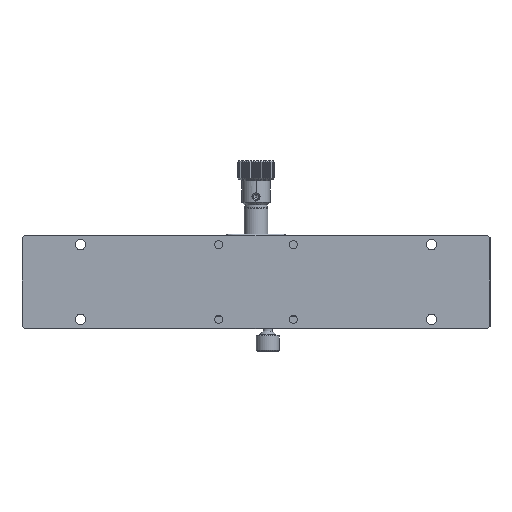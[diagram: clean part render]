
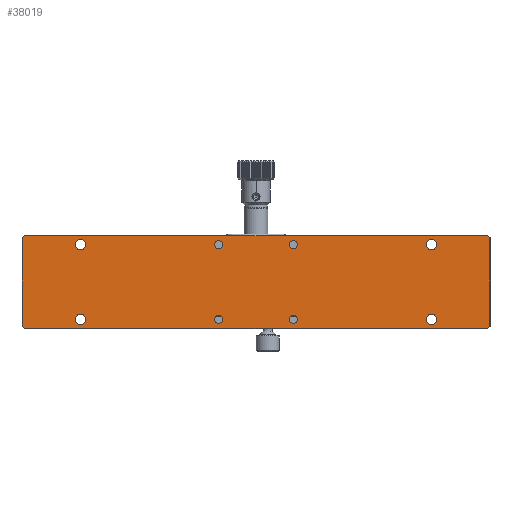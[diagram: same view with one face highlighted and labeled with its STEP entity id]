
A CAD part, front view. The second image highlights one B-rep face of the part: STEP entity #38019.
In plain terms, the highlighted planar face has unit normal (0, -1, 0).
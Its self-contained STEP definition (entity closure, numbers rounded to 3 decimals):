
#571=CARTESIAN_POINT('',(-16.,-14.5,-16.));
#572=DIRECTION('',(0.,1.,0.));
#573=DIRECTION('',(1.,0.,0.));
#574=AXIS2_PLACEMENT_3D('',#571,#572,#573);
#576=CARTESIAN_POINT('',(-16.,-14.5,-16.));
#577=DIRECTION('',(0.,1.,0.));
#578=DIRECTION('',(-1.,0.,0.));
#579=AXIS2_PLACEMENT_3D('',#576,#577,#578);
#581=CARTESIAN_POINT('',(16.,-14.5,-16.));
#582=DIRECTION('',(0.,1.,0.));
#583=DIRECTION('',(1.,0.,0.));
#584=AXIS2_PLACEMENT_3D('',#581,#582,#583);
#586=CARTESIAN_POINT('',(16.,-14.5,-16.));
#587=DIRECTION('',(0.,1.,0.));
#588=DIRECTION('',(-1.,0.,0.));
#589=AXIS2_PLACEMENT_3D('',#586,#587,#588);
#591=CARTESIAN_POINT('',(-16.,-14.5,16.));
#592=DIRECTION('',(0.,1.,0.));
#593=DIRECTION('',(1.,0.,0.));
#594=AXIS2_PLACEMENT_3D('',#591,#592,#593);
#596=CARTESIAN_POINT('',(-16.,-14.5,16.));
#597=DIRECTION('',(0.,1.,0.));
#598=DIRECTION('',(-1.,0.,0.));
#599=AXIS2_PLACEMENT_3D('',#596,#597,#598);
#601=CARTESIAN_POINT('',(16.,-14.5,16.));
#602=DIRECTION('',(0.,1.,0.));
#603=DIRECTION('',(1.,0.,0.));
#604=AXIS2_PLACEMENT_3D('',#601,#602,#603);
#606=CARTESIAN_POINT('',(16.,-14.5,16.));
#607=DIRECTION('',(0.,1.,0.));
#608=DIRECTION('',(-1.,0.,0.));
#609=AXIS2_PLACEMENT_3D('',#606,#607,#608);
#611=CARTESIAN_POINT('',(-16.,-14.5,-75.));
#612=DIRECTION('',(0.,1.,0.));
#613=DIRECTION('',(1.,0.,0.));
#614=AXIS2_PLACEMENT_3D('',#611,#612,#613);
#616=CARTESIAN_POINT('',(-16.,-14.5,-75.));
#617=DIRECTION('',(0.,1.,0.));
#618=DIRECTION('',(-1.,0.,0.));
#619=AXIS2_PLACEMENT_3D('',#616,#617,#618);
#621=CARTESIAN_POINT('',(16.,-14.5,-75.));
#622=DIRECTION('',(0.,1.,0.));
#623=DIRECTION('',(1.,0.,0.));
#624=AXIS2_PLACEMENT_3D('',#621,#622,#623);
#626=CARTESIAN_POINT('',(16.,-14.5,-75.));
#627=DIRECTION('',(0.,1.,0.));
#628=DIRECTION('',(-1.,0.,0.));
#629=AXIS2_PLACEMENT_3D('',#626,#627,#628);
#631=CARTESIAN_POINT('',(-16.,-14.5,75.));
#632=DIRECTION('',(0.,1.,0.));
#633=DIRECTION('',(1.,0.,0.));
#634=AXIS2_PLACEMENT_3D('',#631,#632,#633);
#636=CARTESIAN_POINT('',(-16.,-14.5,75.));
#637=DIRECTION('',(0.,1.,0.));
#638=DIRECTION('',(-1.,0.,0.));
#639=AXIS2_PLACEMENT_3D('',#636,#637,#638);
#641=CARTESIAN_POINT('',(16.,-14.5,75.));
#642=DIRECTION('',(0.,1.,0.));
#643=DIRECTION('',(1.,0.,0.));
#644=AXIS2_PLACEMENT_3D('',#641,#642,#643);
#646=CARTESIAN_POINT('',(16.,-14.5,75.));
#647=DIRECTION('',(0.,1.,0.));
#648=DIRECTION('',(-1.,0.,0.));
#649=AXIS2_PLACEMENT_3D('',#646,#647,#648);
#651=DIRECTION('',(0.707,0.,-0.707));
#652=VECTOR('',#651,1.249);
#653=CARTESIAN_POINT('',(-19.8,-14.5,-98.917));
#654=LINE('',#653,#652);
#655=DIRECTION('',(0.,0.,-1.));
#656=VECTOR('',#655,197.834);
#657=CARTESIAN_POINT('',(-19.8,-14.5,98.917));
#658=LINE('',#657,#656);
#659=DIRECTION('',(-0.707,0.,-0.707));
#660=VECTOR('',#659,1.249);
#661=CARTESIAN_POINT('',(-18.917,-14.5,99.8));
#662=LINE('',#661,#660);
#663=DIRECTION('',(-1.,0.,0.));
#664=VECTOR('',#663,37.834);
#665=CARTESIAN_POINT('',(18.917,-14.5,99.8));
#666=LINE('',#665,#664);
#667=DIRECTION('',(-0.707,0.,0.707));
#668=VECTOR('',#667,1.249);
#669=CARTESIAN_POINT('',(19.8,-14.5,98.917));
#670=LINE('',#669,#668);
#671=DIRECTION('',(0.,0.,1.));
#672=VECTOR('',#671,197.834);
#673=CARTESIAN_POINT('',(19.8,-14.5,-98.917));
#674=LINE('',#673,#672);
#675=DIRECTION('',(0.707,0.,0.707));
#676=VECTOR('',#675,1.249);
#677=CARTESIAN_POINT('',(18.917,-14.5,-99.8));
#678=LINE('',#677,#676);
#679=DIRECTION('',(1.,0.,0.));
#680=VECTOR('',#679,37.834);
#681=CARTESIAN_POINT('',(-18.917,-14.5,-99.8));
#682=LINE('',#681,#680);
#27842=CARTESIAN_POINT('',(-19.8,-14.5,-98.917));
#27843=CARTESIAN_POINT('',(-18.917,-14.5,-99.8));
#27844=VERTEX_POINT('',#27842);
#27845=VERTEX_POINT('',#27843);
#27852=CARTESIAN_POINT('',(18.917,-14.5,-99.8));
#27853=VERTEX_POINT('',#27852);
#27854=CARTESIAN_POINT('',(19.8,-14.5,-98.917));
#27855=VERTEX_POINT('',#27854);
#27860=CARTESIAN_POINT('',(19.8,-14.5,98.917));
#27861=VERTEX_POINT('',#27860);
#27862=CARTESIAN_POINT('',(18.917,-14.5,99.8));
#27863=VERTEX_POINT('',#27862);
#27868=CARTESIAN_POINT('',(-18.917,-14.5,99.8));
#27869=VERTEX_POINT('',#27868);
#27872=CARTESIAN_POINT('',(-19.8,-14.5,98.917));
#27873=VERTEX_POINT('',#27872);
#29262=CARTESIAN_POINT('',(-13.8,-14.5,-75.));
#29263=CARTESIAN_POINT('',(-18.2,-14.5,-75.));
#29264=VERTEX_POINT('',#29262);
#29265=VERTEX_POINT('',#29263);
#29266=CARTESIAN_POINT('',(18.2,-14.5,-75.));
#29267=CARTESIAN_POINT('',(13.8,-14.5,-75.));
#29268=VERTEX_POINT('',#29266);
#29269=VERTEX_POINT('',#29267);
#29270=CARTESIAN_POINT('',(-13.8,-14.5,75.));
#29271=CARTESIAN_POINT('',(-18.2,-14.5,75.));
#29272=VERTEX_POINT('',#29270);
#29273=VERTEX_POINT('',#29271);
#29274=CARTESIAN_POINT('',(18.2,-14.5,75.));
#29275=CARTESIAN_POINT('',(13.8,-14.5,75.));
#29276=VERTEX_POINT('',#29274);
#29277=VERTEX_POINT('',#29275);
#37002=CARTESIAN_POINT('',(-14.25,-14.5,-16.));
#37003=CARTESIAN_POINT('',(-17.75,-14.5,-16.));
#37004=VERTEX_POINT('',#37002);
#37005=VERTEX_POINT('',#37003);
#37006=CARTESIAN_POINT('',(17.75,-14.5,-16.));
#37007=CARTESIAN_POINT('',(14.25,-14.5,-16.));
#37008=VERTEX_POINT('',#37006);
#37009=VERTEX_POINT('',#37007);
#37010=CARTESIAN_POINT('',(-14.25,-14.5,16.));
#37011=CARTESIAN_POINT('',(-17.75,-14.5,16.));
#37012=VERTEX_POINT('',#37010);
#37013=VERTEX_POINT('',#37011);
#37014=CARTESIAN_POINT('',(17.75,-14.5,16.));
#37015=CARTESIAN_POINT('',(14.25,-14.5,16.));
#37016=VERTEX_POINT('',#37014);
#37017=VERTEX_POINT('',#37015);
#37949=CARTESIAN_POINT('',(0.,-14.5,0.));
#37950=DIRECTION('',(0.,1.,0.));
#37951=DIRECTION('',(1.,0.,0.));
#37952=AXIS2_PLACEMENT_3D('',#37949,#37950,#37951);
#37953=PLANE('',#37952);
#37955=ORIENTED_EDGE('',*,*,#37954,.F.);
#37957=ORIENTED_EDGE('',*,*,#37956,.F.);
#37959=ORIENTED_EDGE('',*,*,#37958,.F.);
#37961=ORIENTED_EDGE('',*,*,#37960,.F.);
#37963=ORIENTED_EDGE('',*,*,#37962,.F.);
#37965=ORIENTED_EDGE('',*,*,#37964,.F.);
#37966=ORIENTED_EDGE('',*,*,#37939,.F.);
#37968=ORIENTED_EDGE('',*,*,#37967,.F.);
#37969=EDGE_LOOP('',(#37955,#37957,#37959,#37961,#37963,#37965,#37966,#37968));
#37970=FACE_OUTER_BOUND('',#37969,.F.);
#37972=ORIENTED_EDGE('',*,*,#37971,.F.);
#37974=ORIENTED_EDGE('',*,*,#37973,.F.);
#37975=EDGE_LOOP('',(#37972,#37974));
#37976=FACE_BOUND('',#37975,.F.);
#37978=ORIENTED_EDGE('',*,*,#37977,.F.);
#37980=ORIENTED_EDGE('',*,*,#37979,.F.);
#37981=EDGE_LOOP('',(#37978,#37980));
#37982=FACE_BOUND('',#37981,.F.);
#37984=ORIENTED_EDGE('',*,*,#37983,.F.);
#37986=ORIENTED_EDGE('',*,*,#37985,.F.);
#37987=EDGE_LOOP('',(#37984,#37986));
#37988=FACE_BOUND('',#37987,.F.);
#37990=ORIENTED_EDGE('',*,*,#37989,.F.);
#37992=ORIENTED_EDGE('',*,*,#37991,.F.);
#37993=EDGE_LOOP('',(#37990,#37992));
#37994=FACE_BOUND('',#37993,.F.);
#37996=ORIENTED_EDGE('',*,*,#37995,.F.);
#37998=ORIENTED_EDGE('',*,*,#37997,.F.);
#37999=EDGE_LOOP('',(#37996,#37998));
#38000=FACE_BOUND('',#37999,.F.);
#38002=ORIENTED_EDGE('',*,*,#38001,.F.);
#38004=ORIENTED_EDGE('',*,*,#38003,.F.);
#38005=EDGE_LOOP('',(#38002,#38004));
#38006=FACE_BOUND('',#38005,.F.);
#38008=ORIENTED_EDGE('',*,*,#38007,.F.);
#38010=ORIENTED_EDGE('',*,*,#38009,.F.);
#38011=EDGE_LOOP('',(#38008,#38010));
#38012=FACE_BOUND('',#38011,.F.);
#38014=ORIENTED_EDGE('',*,*,#38013,.F.);
#38016=ORIENTED_EDGE('',*,*,#38015,.F.);
#38017=EDGE_LOOP('',(#38014,#38016));
#38018=FACE_BOUND('',#38017,.F.);
#38019=ADVANCED_FACE('',(#37970,#37976,#37982,#37988,#37994,#38000,#38006,
#38012,#38018),#37953,.F.);
#575=CIRCLE('',#574,1.75);
#580=CIRCLE('',#579,1.75);
#585=CIRCLE('',#584,1.75);
#590=CIRCLE('',#589,1.75);
#595=CIRCLE('',#594,1.75);
#600=CIRCLE('',#599,1.75);
#605=CIRCLE('',#604,1.75);
#610=CIRCLE('',#609,1.75);
#615=CIRCLE('',#614,2.2);
#620=CIRCLE('',#619,2.2);
#625=CIRCLE('',#624,2.2);
#630=CIRCLE('',#629,2.2);
#635=CIRCLE('',#634,2.2);
#640=CIRCLE('',#639,2.2);
#645=CIRCLE('',#644,2.2);
#650=CIRCLE('',#649,2.2);
#37939=EDGE_CURVE('',#27853,#27855,#678,.T.);
#37954=EDGE_CURVE('',#27844,#27845,#654,.T.);
#37956=EDGE_CURVE('',#27873,#27844,#658,.T.);
#37958=EDGE_CURVE('',#27869,#27873,#662,.T.);
#37960=EDGE_CURVE('',#27863,#27869,#666,.T.);
#37962=EDGE_CURVE('',#27861,#27863,#670,.T.);
#37964=EDGE_CURVE('',#27855,#27861,#674,.T.);
#37967=EDGE_CURVE('',#27845,#27853,#682,.T.);
#37971=EDGE_CURVE('',#37008,#37009,#585,.T.);
#37973=EDGE_CURVE('',#37009,#37008,#590,.T.);
#37977=EDGE_CURVE('',#37012,#37013,#595,.T.);
#37979=EDGE_CURVE('',#37013,#37012,#600,.T.);
#37983=EDGE_CURVE('',#37016,#37017,#605,.T.);
#37985=EDGE_CURVE('',#37017,#37016,#610,.T.);
#37989=EDGE_CURVE('',#29264,#29265,#615,.T.);
#37991=EDGE_CURVE('',#29265,#29264,#620,.T.);
#37995=EDGE_CURVE('',#29268,#29269,#625,.T.);
#37997=EDGE_CURVE('',#29269,#29268,#630,.T.);
#38001=EDGE_CURVE('',#29272,#29273,#635,.T.);
#38003=EDGE_CURVE('',#29273,#29272,#640,.T.);
#38007=EDGE_CURVE('',#29276,#29277,#645,.T.);
#38009=EDGE_CURVE('',#29277,#29276,#650,.T.);
#38013=EDGE_CURVE('',#37004,#37005,#575,.T.);
#38015=EDGE_CURVE('',#37005,#37004,#580,.T.);
